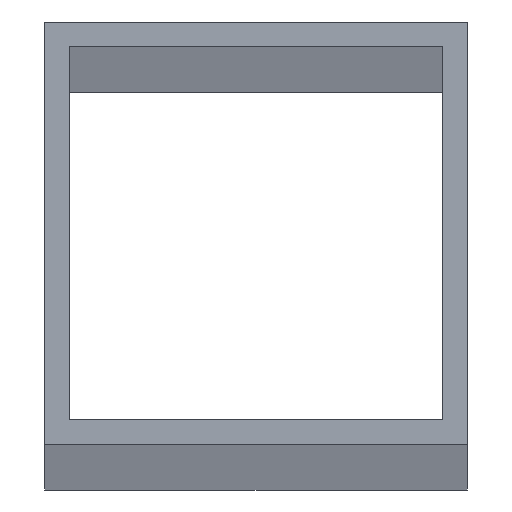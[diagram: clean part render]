
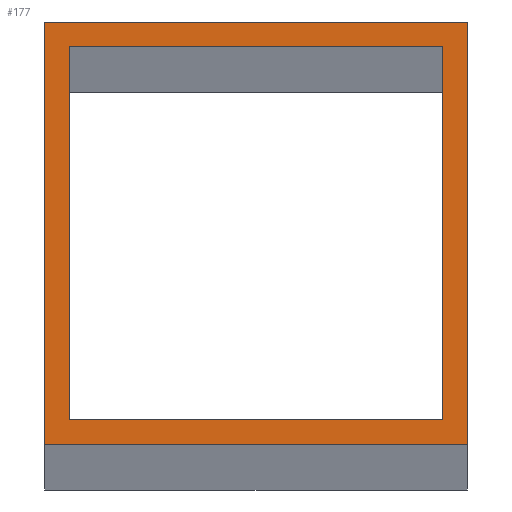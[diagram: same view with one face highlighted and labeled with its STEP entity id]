
A CAD part, top view. The second image highlights one B-rep face of the part: STEP entity #177.
In plain terms, the highlighted planar face has unit normal (0, 0, 1).
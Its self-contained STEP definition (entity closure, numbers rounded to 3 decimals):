
#6 = CARTESIAN_POINT ( 'NONE',  ( 11.05, 11.05, 775. ) ) ;
#11 = ORIENTED_EDGE ( 'NONE', *, *, #230, .T. ) ;
#13 = VERTEX_POINT ( 'NONE', #250 ) ;
#24 = EDGE_CURVE ( 'NONE', #13, #248, #80, .T. ) ;
#29 = FACE_OUTER_BOUND ( 'NONE', #329, .T. ) ;
#41 = ORIENTED_EDGE ( 'NONE', *, *, #262, .F. ) ;
#52 = CARTESIAN_POINT ( 'NONE',  ( -11.05, -11.05, 775. ) ) ;
#54 = VECTOR ( 'NONE', #180, 1000. ) ;
#60 = CARTESIAN_POINT ( 'NONE',  ( -12.5, -12.5, 775. ) ) ;
#64 = VERTEX_POINT ( 'NONE', #327 ) ;
#67 = DIRECTION ( 'NONE',  ( -1., 0., 0. ) ) ;
#69 = ORIENTED_EDGE ( 'NONE', *, *, #209, .T. ) ;
#77 = EDGE_CURVE ( 'NONE', #279, #190, #184, .T. ) ;
#78 = CARTESIAN_POINT ( 'NONE',  ( 11.05, -11.05, 775. ) ) ;
#80 = LINE ( 'NONE', #178, #54 ) ;
#83 = CARTESIAN_POINT ( 'NONE',  ( -11.05, -11.05, 775. ) ) ;
#85 = DIRECTION ( 'NONE',  ( 1., 0., 0. ) ) ;
#93 = CARTESIAN_POINT ( 'NONE',  ( -12.5, 12.5, 775. ) ) ;
#98 = LINE ( 'NONE', #186, #216 ) ;
#103 = VECTOR ( 'NONE', #67, 1000. ) ;
#108 = CARTESIAN_POINT ( 'NONE',  ( 12.5, -12.5, 775. ) ) ;
#113 = CARTESIAN_POINT ( 'NONE',  ( 11.05, -11.05, 775. ) ) ;
#127 = ORIENTED_EDGE ( 'NONE', *, *, #332, .T. ) ;
#129 = ORIENTED_EDGE ( 'NONE', *, *, #158, .F. ) ;
#132 = EDGE_CURVE ( 'NONE', #190, #198, #98, .T. ) ;
#133 = DIRECTION ( 'NONE',  ( 0., 0., -1. ) ) ;
#134 = LINE ( 'NONE', #113, #168 ) ;
#136 = VERTEX_POINT ( 'NONE', #78 ) ;
#138 = LINE ( 'NONE', #93, #103 ) ;
#148 = VECTOR ( 'NONE', #318, 1000. ) ;
#153 = DIRECTION ( 'NONE',  ( 0., -1., 0. ) ) ;
#154 = CARTESIAN_POINT ( 'NONE',  ( -11.05, 11.05, 775. ) ) ;
#157 = PLANE ( 'NONE',  #166 ) ;
#158 = EDGE_CURVE ( 'NONE', #198, #136, #275, .T. ) ;
#159 = CARTESIAN_POINT ( 'NONE',  ( 12.5, 12.5, 775. ) ) ;
#166 = AXIS2_PLACEMENT_3D ( 'NONE', #257, #133, #336 ) ;
#168 = VECTOR ( 'NONE', #193, 1000. ) ;
#177 = ADVANCED_FACE ( 'NONE', ( #29, #188 ), #157, .F. ) ;
#178 = CARTESIAN_POINT ( 'NONE',  ( -12.5, -12.5, 775. ) ) ;
#179 = CARTESIAN_POINT ( 'NONE',  ( -11.05, 11.05, 775. ) ) ;
#180 = DIRECTION ( 'NONE',  ( 0., -1., 0. ) ) ;
#184 = LINE ( 'NONE', #179, #307 ) ;
#186 = CARTESIAN_POINT ( 'NONE',  ( -11.05, -11.05, 775. ) ) ;
#188 = FACE_BOUND ( 'NONE', #254, .T. ) ;
#190 = VERTEX_POINT ( 'NONE', #154 ) ;
#193 = DIRECTION ( 'NONE',  ( 0., 1., 0. ) ) ;
#198 = VERTEX_POINT ( 'NONE', #83 ) ;
#202 = DIRECTION ( 'NONE',  ( -1., 0., 0. ) ) ;
#209 = EDGE_CURVE ( 'NONE', #64, #271, #328, .T. ) ;
#210 = VECTOR ( 'NONE', #311, 1000. ) ;
#216 = VECTOR ( 'NONE', #153, 1000. ) ;
#221 = CARTESIAN_POINT ( 'NONE',  ( -12.5, -12.5, 775. ) ) ;
#227 = VECTOR ( 'NONE', #85, 1000. ) ;
#230 = EDGE_CURVE ( 'NONE', #248, #64, #278, .T. ) ;
#248 = VERTEX_POINT ( 'NONE', #60 ) ;
#250 = CARTESIAN_POINT ( 'NONE',  ( -12.5, 12.5, 775. ) ) ;
#254 = EDGE_LOOP ( 'NONE', ( #330, #288, #41, #129 ) ) ;
#257 = CARTESIAN_POINT ( 'NONE',  ( 0., 0., 775. ) ) ;
#261 = ORIENTED_EDGE ( 'NONE', *, *, #24, .T. ) ;
#262 = EDGE_CURVE ( 'NONE', #136, #279, #134, .T. ) ;
#271 = VERTEX_POINT ( 'NONE', #159 ) ;
#275 = LINE ( 'NONE', #52, #210 ) ;
#278 = LINE ( 'NONE', #221, #227 ) ;
#279 = VERTEX_POINT ( 'NONE', #6 ) ;
#288 = ORIENTED_EDGE ( 'NONE', *, *, #77, .F. ) ;
#307 = VECTOR ( 'NONE', #202, 1000. ) ;
#311 = DIRECTION ( 'NONE',  ( 1., 0., 0. ) ) ;
#318 = DIRECTION ( 'NONE',  ( 0., 1., 0. ) ) ;
#327 = CARTESIAN_POINT ( 'NONE',  ( 12.5, -12.5, 775. ) ) ;
#328 = LINE ( 'NONE', #108, #148 ) ;
#329 = EDGE_LOOP ( 'NONE', ( #69, #127, #261, #11 ) ) ;
#330 = ORIENTED_EDGE ( 'NONE', *, *, #132, .F. ) ;
#332 = EDGE_CURVE ( 'NONE', #271, #13, #138, .T. ) ;
#336 = DIRECTION ( 'NONE',  ( -1., 0., 0. ) ) ;
